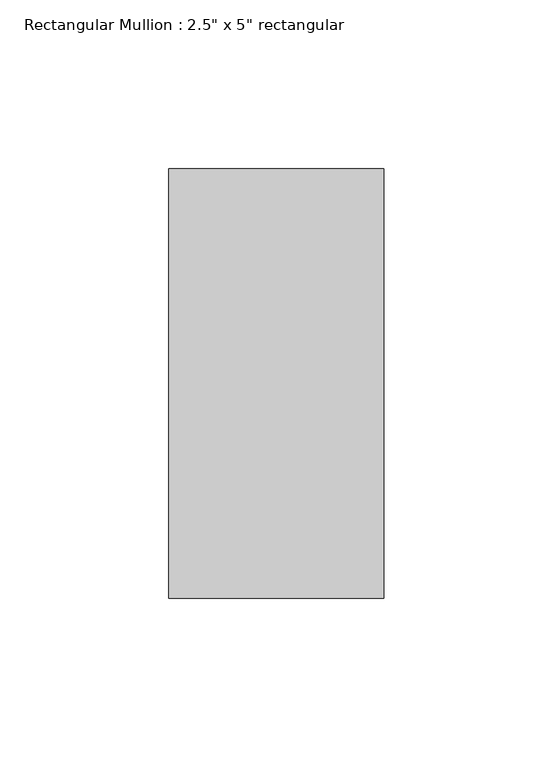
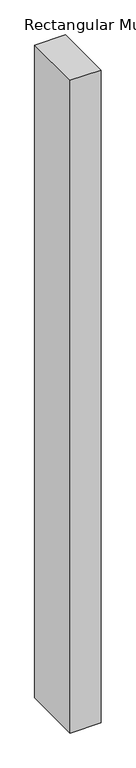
"""IFC4 building model written with IfcOpenShell, lengths in millimetres: member geometry."""

import ifcopenshell
import ifcopenshell.guid

model = None  # the IFC model being written
_history = None  # IfcOwnerHistory: only IFC2X3 demands one
_inside = {}  # id of a spatial element -> (the spatial element, [elements in it])
_under = {}  # id of a project, library or spatial element -> (it, [spatial elements below it])
_declared = {}  # id of a project -> (the project, [libraries it declares])
_typed = {}  # id of a type object -> (the type object, [elements of that type])
_made_of = {}  # id of a material, layer set ... -> (it, [elements and type objects made of it])


def new_model(schema):
    """Start an empty IFC model of exactly this schema.

    Asked for "IFC4X3", IfcOpenShell would pick the latest addendum, in which some entities
    have other attributes; the version numbers below select the first issue.
    IFC2X3 requires an IfcOwnerHistory on every rooted entity: one is made here for all.
    """
    global model, _history
    if schema == "IFC4X3":
        model = ifcopenshell.file(schema_version=(4, 3, 0, 0))
    else:
        model = ifcopenshell.file(schema=schema)
    _inside.clear()
    _under.clear()
    _declared.clear()
    _typed.clear()
    _made_of.clear()
    _history = None
    if model.schema == "IFC2X3":
        org = make("IfcOrganization", Name="unknown")
        user = make(
            "IfcPersonAndOrganization",
            ThePerson=make("IfcPerson", FamilyName="unknown"),
            TheOrganization=org,
        )
        app = make(
            "IfcApplication",
            ApplicationDeveloper=org,
            Version="unknown",
            ApplicationFullName="unknown",
            ApplicationIdentifier="unknown",
        )
        _history = make(
            "IfcOwnerHistory",
            OwningUser=user,
            OwningApplication=app,
            ChangeAction="ADDED",
            CreationDate=0,
        )
    return model


def make(cls, **values):
    """One entity of the class cls with the attributes given. An attribute that is None is left unset."""
    return model.create_entity(
        cls, **{name: value for name, value in values.items() if value is not None}
    )


def rooted(cls, **values):
    """An entity with a GlobalId (a new one), such as an element, a storey or a relation."""
    return make(cls, GlobalId=ifcopenshell.guid.new(), OwnerHistory=_history, **values)


def si_unit(unit_type, name, prefix=None):
    """IfcSIUnit, for example si_unit("LENGTHUNIT", "METRE", prefix="MILLI")."""
    return make("IfcSIUnit", UnitType=unit_type, Prefix=prefix, Name=name)


def assignment(units):
    """IfcUnitAssignment: the units of a project."""
    return None if units is None else make("IfcUnitAssignment", Units=units)


def point(xyz):
    """IfcCartesianPoint."""
    return None if xyz is None else make("IfcCartesianPoint", Coordinates=xyz)


def direction(xyz):
    """IfcDirection."""
    return None if xyz is None else make("IfcDirection", DirectionRatios=xyz)


def frame(location, z_axis=None, x_axis=None):
    """IfcAxis2Placement3D, a coordinate frame: its origin and axes. An axis left out is left unset."""
    return make(
        "IfcAxis2Placement3D",
        Location=point(location),
        Axis=direction(z_axis),
        RefDirection=direction(x_axis),
    )


def origin():
    """The frame at (0, 0, 0) with its axes left unset."""
    return frame((0.0, 0.0, 0.0))


def place(relative_to, where):
    """IfcLocalPlacement: puts the frame where relative to a parent placement (None: the world)."""
    return make(
        "IfcLocalPlacement", PlacementRelTo=relative_to, RelativePlacement=where
    )


def context(
    kind, dimensions, precision=None, world=None, true_north=None, identifier=None
):
    """IfcGeometricRepresentationContext, for example the 3D "Model" context."""
    return make(
        "IfcGeometricRepresentationContext",
        ContextIdentifier=identifier,
        ContextType=kind,
        CoordinateSpaceDimension=dimensions,
        Precision=precision,
        WorldCoordinateSystem=world,
        TrueNorth=true_north,
    )


def project(units=None, contexts=None):
    """IfcProject with its units and contexts."""
    return rooted(
        "IfcProject",
        Name="project",
        RepresentationContexts=contexts,
        UnitsInContext=assignment(units),
    )


def spatial(cls, under=None, at=None, **own):
    """A site, building, storey or space (cls), placed at a placement, below another one or the project."""
    s = rooted(cls, ObjectPlacement=at, **own)
    if under is not None:
        _under.setdefault(under.id(), (under, []))[1].append(s)
    return s


def polyline(points):
    """IfcPolyline through the points."""
    return make("IfcPolyline", Points=[point(p) for p in points])


def outline(outer, holes=None, kind="AREA"):
    """IfcArbitraryClosedProfileDef: a profile drawn as a closed curve; with holes, ...WithVoids."""
    if holes is None:
        return make("IfcArbitraryClosedProfileDef", ProfileType=kind, OuterCurve=outer)
    return make(
        "IfcArbitraryProfileDefWithVoids",
        ProfileType=kind,
        OuterCurve=outer,
        InnerCurves=holes,
    )


def extrude(swept, where, along, depth):
    """IfcExtrudedAreaSolid: the profile swept, set in the frame where, extruded along a direction by depth."""
    return make(
        "IfcExtrudedAreaSolid",
        SweptArea=swept,
        Position=where,
        ExtrudedDirection=direction(along),
        Depth=depth,
    )


def shape(context_of_items, identifier, shape_type, items):
    """IfcShapeRepresentation: the items that make up one representation, for example the "Body"."""
    return make(
        "IfcShapeRepresentation",
        ContextOfItems=context_of_items,
        RepresentationIdentifier=identifier,
        RepresentationType=shape_type,
        Items=items,
    )


def source(mapping_origin, context_of_items, identifier, shape_type, items):
    """IfcRepresentationMap: a shape defined once, which mapped items show again and again."""
    return make(
        "IfcRepresentationMap",
        MappingOrigin=mapping_origin,
        MappedRepresentation=shape(context_of_items, identifier, shape_type, items),
    )


def transform(
    local_origin,
    x_axis=None,
    y_axis=None,
    z_axis=None,
    scale=None,
    scale2=None,
    scale3=None,
    uniform=True,
):
    """IfcCartesianTransformationOperator3D, or its non-uniform kind. x_axis, y_axis, z_axis: its Axis1, 2, 3."""
    if uniform:
        return make(
            "IfcCartesianTransformationOperator3D",
            Axis1=direction(x_axis),
            Axis2=direction(y_axis),
            LocalOrigin=point(local_origin),
            Scale=scale,
            Axis3=direction(z_axis),
        )
    return make(
        "IfcCartesianTransformationOperator3DnonUniform",
        Axis1=direction(x_axis),
        Axis2=direction(y_axis),
        LocalOrigin=point(local_origin),
        Scale=scale,
        Axis3=direction(z_axis),
        Scale2=scale2,
        Scale3=scale3,
    )


def mapped(mapping_source, mapping_target):
    """IfcMappedItem: shows the shape of a source again, moved by a transform."""
    return make(
        "IfcMappedItem", MappingSource=mapping_source, MappingTarget=mapping_target
    )


def made_of(thing, what):
    """Note that an element or type object is made of a material, layer set ...; save() writes the relation."""
    if what is not None:
        _made_of.setdefault(what.id(), (what, []))[1].append(thing)
    return thing


def element(
    cls,
    number,
    at=None,
    inside=None,
    cuts=None,
    type_object=None,
    material=None,
    context=None,
    identifier="Body",
    shape_type=None,
    held_by="IfcProductDefinitionShape",
    body=None,
    shapes=None,
    **own,
):
    """One element of the class cls, such as IfcWall. Its Tag is "e" and its number.

    at: its placement. inside: the storey or other place that contains it. cuts: it is an
    opening in that element (IfcRelVoidsElement). A single representation is given by context,
    identifier, shape_type and body (its items); several are given by shapes. held_by: the class
    of the entity that holds the representations. save() writes the other relations.
    """
    e = rooted(cls, Tag="e%d" % number, ObjectPlacement=at, **own)
    if body is not None:
        shapes = [shape(context, identifier, shape_type, body)]
    if shapes is not None:
        e.Representation = make(held_by, Representations=shapes)
    if inside is not None:
        _inside.setdefault(inside.id(), (inside, []))[1].append(e)
    if cuts is not None:
        rooted(
            "IfcRelVoidsElement", RelatingBuildingElement=cuts, RelatedOpeningElement=e
        )
    if type_object is not None:
        _typed.setdefault(type_object.id(), (type_object, []))[1].append(e)
    return made_of(e, material)


def aggregate(whole, parts):
    """IfcRelAggregates: a whole, such as a stair, and the parts it consists of."""
    return rooted("IfcRelAggregates", RelatingObject=whole, RelatedObjects=parts)


def save(model, path):
    """Write the relations noted so far, then the file.

    IfcRelAggregates (storeys below a building ...), IfcRelContainedInSpatialStructure (elements
    in a storey), IfcRelDefinesByType, IfcRelAssociatesMaterial and IfcRelDeclares: one each for
    every whole, place, type object, material and project.
    """
    for whole, parts in _under.values():
        aggregate(whole, parts)
    for where, things in _inside.values():
        rooted(
            "IfcRelContainedInSpatialStructure",
            RelatedElements=things,
            RelatingStructure=where,
        )
    for kind, things in _typed.values():
        rooted("IfcRelDefinesByType", RelatedObjects=things, RelatingType=kind)
    for what, things in _made_of.values():
        rooted("IfcRelAssociatesMaterial", RelatedObjects=things, RelatingMaterial=what)
    for by, libraries in _declared.values():
        rooted("IfcRelDeclares", RelatingContext=by, RelatedDefinitions=libraries)
    model.write(path)


def member_8687db13(model_context):
    return source(origin(), model_context, "Body", "SweptSolid", [
        extrude(outline(polyline([(0.0, 50.8), (0.0, -76.2), (-63.5, -76.2), (-63.5, 50.8), (0.0, 50.8)])), frame((0.0, 0.0, -1422.1963652), z_axis=(0.0, 0.0, 1.0), x_axis=(1.0, 0.0, 0.0)), (0.0, 0.0, 1.0), 1422.1963652),
    ])


if __name__ == "__main__":
    model = new_model("IFC4")
    model_context = context("Model", 3, world=origin())
    ifc_project = project(units=[si_unit("LENGTHUNIT", "METRE", prefix="MILLI")], contexts=[model_context])
    site = spatial("IfcSite", under=ifc_project)
    building = spatial("IfcBuilding", under=site)
    placement = place(None, origin())
    member_shape = member_8687db13(model_context)
    element("IfcMember", 1, ObjectType="Rectangular Mullion : 2.5\" x 5\" rectangular", at=placement, inside=building, context=model_context, shape_type="MappedRepresentation", body=[
        mapped(member_shape, transform((0.0, 0.0, 0.0), x_axis=(1.0, 0.0, 0.0), y_axis=(0.0, 1.0, 0.0), z_axis=(0.0, 0.0, 1.0))),
    ])
    save(model, "model.ifc")
